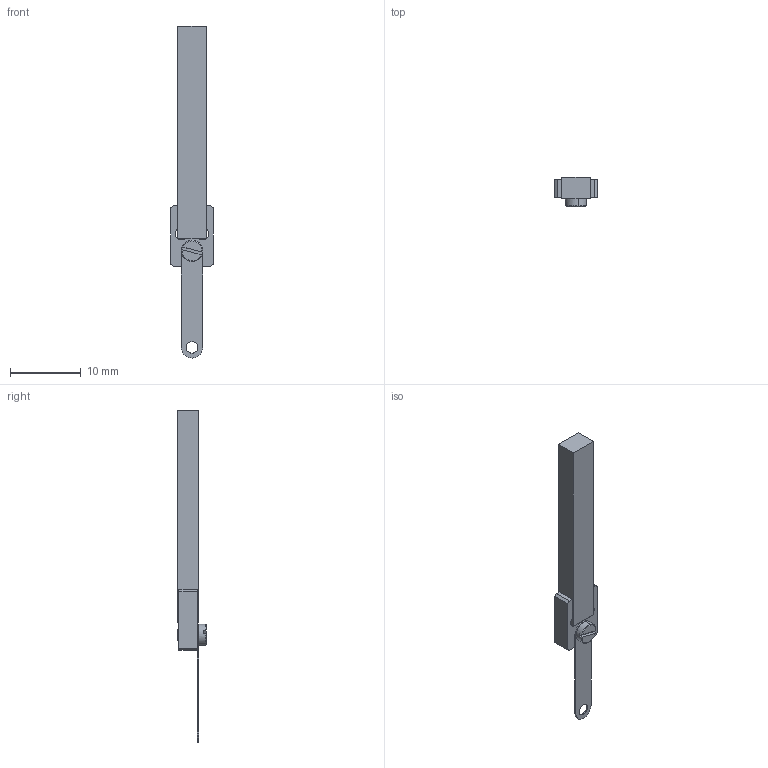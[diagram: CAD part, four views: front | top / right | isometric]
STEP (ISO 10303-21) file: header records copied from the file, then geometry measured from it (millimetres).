
FILE_DESCRIPTION (( 'STEP AP214' ), '1' );
FILE_NAME ('LT2020D_DriveRod_030D1D2-PiezoMotor.STEP', '2017-06-08T11:59:16', ( '' ), ( '' ), 'SwSTEP 2.0', 'SolidWorks 2016', '' );
FILE_SCHEMA (( 'AUTOMOTIVE_DESIGN' ));
Length unit declared in the file: millimetre
Products named in the file (2): LT2020D_DriveRod_030D1D2-PiezoMotor
Bounding box: 6 x 4.1 x 46.95 mm (x, y, z)
Volume: 460.2 mm3; surface area: 751.2 mm2
Topology: 4 solids, 4 shells, 54 faces, 130 edges, 85 vertices
Faces by surface type: plane 27, cylinder 20, cone 7
Entity records: 1677 total; most frequent: DIRECTION 289, CARTESIAN_POINT 283, ORIENTED_EDGE 260, EDGE_CURVE 130, AXIS2_PLACEMENT_3D 107, VERTEX_POINT 85, VECTOR 75, LINE 75
